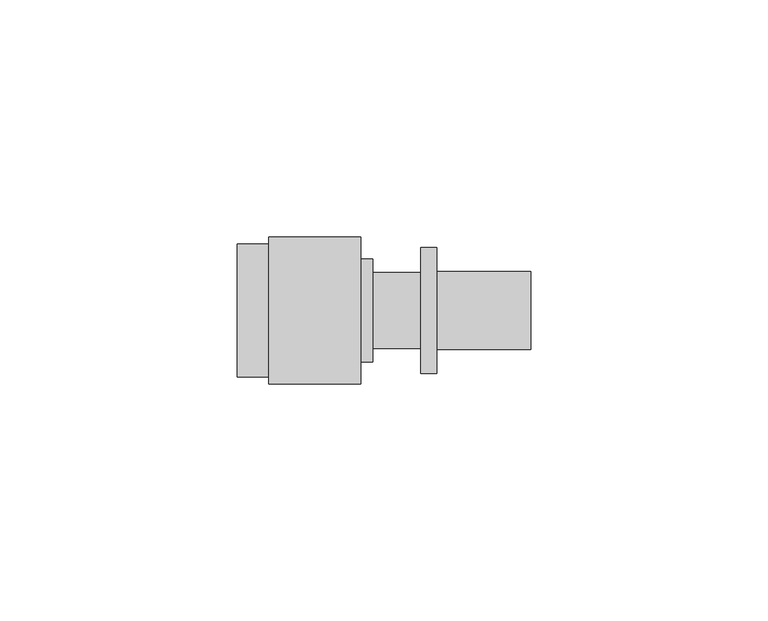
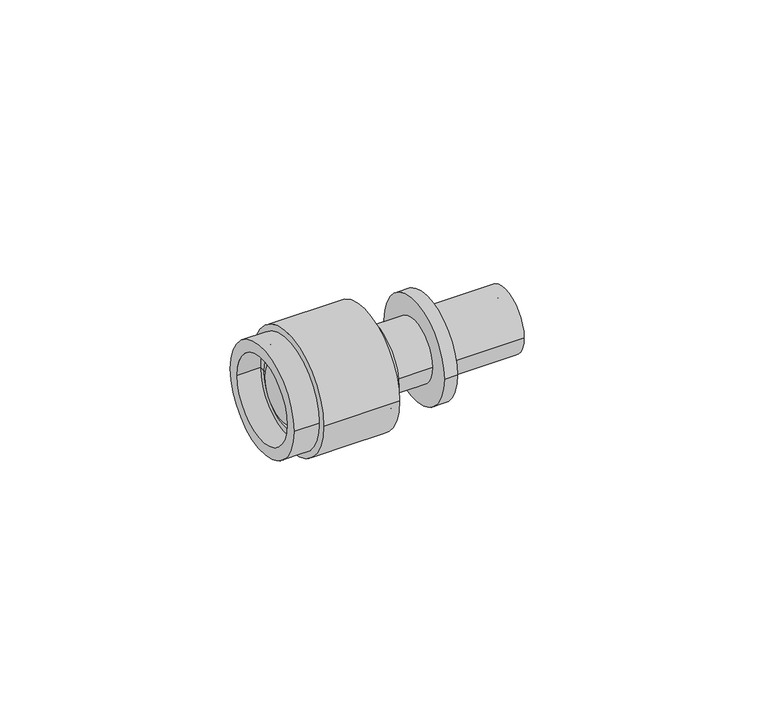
"""IFC4 building model written with IfcOpenShell, lengths in millimetres: pipe fitting geometry, REHAU_RAUTITAN_Adaptor RX+, MeplaFix : REHAU_RAUTITAN_Adaptor RX+, MeplaFix."""

from ifc_helpers import new_model, si_unit, point, frame, origin, origin_2d, place, context, project, spatial, polyline, circle_curve, trimmed, segment, composite_curve, outline, extrude, source, transform, mapped, element, save
from ifc_brep_helpers import plane_surface, cylinder_surface, revolved_surface, advanced_brep


def pipe_fitting_01caa238(model_context):
    return source(origin(), model_context, "Body", "SolidModel", [
        advanced_brep(
        [(-7.65, -15.5, 0.0), (-7.65, 15.5, 0.0), (-7.65, 12.7, 0.0), (-7.65, -12.7, 0.0), (-26.95, -15.5, 0.0), (-26.95, 15.5, 0.0), (-26.95, -9.3, 0.0), (-26.95, 9.3, 0.0), (-16.65, -12.7, 0.0), (-16.65, 12.7, 0.0), (-16.65, 10.5, 0.0), (-16.65, -10.5, 0.0), (-18.55, 10.5, 0.0), (-18.55, -10.5, 0.0), (-18.55, 8.7, 0.0), (-18.55, -8.7, 0.0), (-20.05, 8.7, 0.0), (-20.05, -8.7, 0.0), (-20.05, 10.7, 0.0), (-20.05, -10.7, 0.0), (-23.75, 10.7, 0.0), (-23.75, -10.7, 0.0), (-23.75, 9.3, 0.0), (-23.75, -9.3, 0.0)],
        [
            (0, 1, circle_curve(frame((-7.65, 0.0, 0.0), z_axis=(1.0, 0.0, 0.0), x_axis=(0.0, 1.0, 0.0)), 15.5)),
            (1, 0, circle_curve(frame((-7.65, 0.0, 0.0), z_axis=(1.0, 0.0, 0.0), x_axis=(0.0, 1.0, 0.0)), 15.5)),
            (2, 3, circle_curve(frame((-7.65, 0.0, 0.0), z_axis=(-1.0, 0.0, 0.0), x_axis=(0.0, 1.0, 0.0)), 12.7)),
            (3, 2, circle_curve(frame((-7.65, 0.0, 0.0), z_axis=(-1.0, 0.0, 0.0), x_axis=(0.0, 1.0, 0.0)), 12.7)),
            (4, 5, circle_curve(frame((-26.95, 0.0, 0.0), z_axis=(-1.0, 0.0, 0.0), x_axis=(0.0, 1.0, 0.0)), 15.5)),
            (5, 4, circle_curve(frame((-26.95, 0.0, 0.0), z_axis=(-1.0, 0.0, 0.0), x_axis=(0.0, 1.0, 0.0)), 15.5)),
            (6, 7, circle_curve(frame((-26.95, 0.0, 0.0), z_axis=(1.0, 0.0, 0.0), x_axis=(0.0, 1.0, 0.0)), 9.3)),
            (7, 6, circle_curve(frame((-26.95, 0.0, 0.0), z_axis=(1.0, 0.0, 0.0), x_axis=(0.0, 1.0, 0.0)), 9.3)),
            (0, 4),
            (5, 1),
            (8, 3),
            (2, 9),
            (9, 8, circle_curve(frame((-16.65, 0.0, 0.0), z_axis=(-1.0, 0.0, 0.0), x_axis=(0.0, 1.0, 0.0)), 12.7)),
            (8, 9, circle_curve(frame((-16.65, 0.0, 0.0), z_axis=(-1.0, 0.0, 0.0), x_axis=(0.0, 1.0, 0.0)), 12.7)),
            (9, 10),
            (10, 11, circle_curve(frame((-16.65, 0.0, 0.0), z_axis=(-1.0, 0.0, 0.0), x_axis=(0.0, 1.0, 0.0)), 10.5)),
            (11, 8),
            (11, 10, circle_curve(frame((-16.65, 0.0, 0.0), z_axis=(-1.0, 0.0, 0.0), x_axis=(0.0, 1.0, 0.0)), 10.5)),
            (10, 12),
            (12, 13, circle_curve(frame((-18.55, 0.0, 0.0), z_axis=(-1.0, 0.0, 0.0), x_axis=(0.0, 1.0, 0.0)), 10.5)),
            (13, 11),
            (13, 12, circle_curve(frame((-18.55, 0.0, 0.0), z_axis=(-1.0, 0.0, 0.0), x_axis=(0.0, 1.0, 0.0)), 10.5)),
            (12, 14),
            (14, 15, circle_curve(frame((-18.55, 0.0, 0.0), z_axis=(-1.0, 0.0, 0.0), x_axis=(0.0, 1.0, 0.0)), 8.7)),
            (15, 13),
            (15, 14, circle_curve(frame((-18.55, 0.0, 0.0), z_axis=(-1.0, 0.0, 0.0), x_axis=(0.0, 1.0, 0.0)), 8.7)),
            (14, 16),
            (16, 17, circle_curve(frame((-20.05, 0.0, 0.0), z_axis=(-1.0, 0.0, 0.0), x_axis=(0.0, 1.0, 0.0)), 8.7)),
            (17, 15),
            (17, 16, circle_curve(frame((-20.05, 0.0, 0.0), z_axis=(-1.0, 0.0, 0.0), x_axis=(0.0, 1.0, 0.0)), 8.7)),
            (16, 18),
            (18, 19, circle_curve(frame((-20.05, 0.0, 0.0), z_axis=(-1.0, 0.0, 0.0), x_axis=(0.0, 1.0, 0.0)), 10.7)),
            (19, 17),
            (19, 18, circle_curve(frame((-20.05, 0.0, 0.0), z_axis=(-1.0, 0.0, 0.0), x_axis=(0.0, 1.0, 0.0)), 10.7)),
            (18, 20),
            (20, 21, circle_curve(frame((-23.75, 0.0, 0.0), z_axis=(-1.0, 0.0, 0.0), x_axis=(0.0, 1.0, 0.0)), 10.7)),
            (21, 19),
            (21, 20, circle_curve(frame((-23.75, 0.0, 0.0), z_axis=(-1.0, 0.0, 0.0), x_axis=(0.0, 1.0, 0.0)), 10.7)),
            (20, 22),
            (22, 23, circle_curve(frame((-23.75, 0.0, 0.0), z_axis=(-1.0, 0.0, 0.0), x_axis=(0.0, 1.0, 0.0)), 9.3)),
            (23, 21),
            (23, 22, circle_curve(frame((-23.75, 0.0, 0.0), z_axis=(-1.0, 0.0, 0.0), x_axis=(0.0, 1.0, 0.0)), 9.3)),
            (22, 7),
            (6, 23),
        ],
        [
            plane_surface(frame((-7.65, 15.5, 0.0), z_axis=(1.0, 0.0, 0.0), x_axis=(0.0, 0.0, 1.0))),
            plane_surface(frame((-26.95, 15.5, 0.0), z_axis=(-1.0, 0.0, 0.0), x_axis=(0.0, 0.0, -1.0))),
            cylinder_surface(frame((-26.95, 0.0, 0.0), z_axis=(1.0, 0.0, 0.0), x_axis=(0.0, 1.0, 0.0)), 15.5),
            revolved_surface(polyline([(-16.65, 12.7, 0.0), (-7.65, 12.7, 0.0)]), (-7.65, 0.0, 0.0), (-1.0, 0.0, 0.0)),
            plane_surface(frame((-16.65, 0.0, 0.0), z_axis=(1.0, 0.0, 0.0), x_axis=(0.0, 1.0, 0.0))),
            revolved_surface(polyline([(-18.55, 10.5, 0.0), (-16.65, 10.5, 0.0)]), (-7.65, 0.0, 0.0), (-1.0, 0.0, 0.0)),
            plane_surface(frame((-18.55, 0.0, 0.0), z_axis=(1.0, 0.0, 0.0), x_axis=(0.0, 1.0, 0.0))),
            revolved_surface(polyline([(-20.05, 8.7, 0.0), (-18.55, 8.7, 0.0)]), (-7.65, 0.0, 0.0), (-1.0, 0.0, 0.0)),
            plane_surface(frame((-20.05, 0.0, 0.0), z_axis=(-1.0, 0.0, 0.0), x_axis=(0.0, 1.0, 0.0))),
            revolved_surface(polyline([(-23.75, 10.7, 0.0), (-20.05, 10.7, 0.0)]), (-7.65, 0.0, 0.0), (-1.0, 0.0, 0.0)),
            plane_surface(frame((-23.75, 0.0, 0.0), z_axis=(1.0, 0.0, 0.0), x_axis=(0.0, 1.0, 0.0))),
            revolved_surface(polyline([(-26.949999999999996, 9.3, 0.0), (-23.75, 9.3, 0.0)]), (-7.65, 0.0, 0.0), (-1.0, 0.0, 0.0)),
        ],
        [
            (0, [[1, 2], [3, 4]]),
            (1, [[5, 6], [7, 8]]),
            (2, [[-1, 9, -6, 10]]),
            (2, [[-2, -10, -5, -9]]),
            (3, [[11, -3, 12, 13]]),
            (3, [[-11, 14, -12, -4]]),
            (4, [[-13, 15, 16, 17]]),
            (4, [[-14, -17, 18, -15]]),
            (5, [[-16, 19, 20, 21]]),
            (5, [[-18, -21, 22, -19]]),
            (6, [[-20, 23, 24, 25]]),
            (6, [[-22, -25, 26, -23]]),
            (7, [[-24, 27, 28, 29]]),
            (7, [[-26, -29, 30, -27]]),
            (8, [[-28, 31, 32, 33]]),
            (8, [[-30, -33, 34, -31]]),
            (9, [[-32, 35, 36, 37]]),
            (9, [[-34, -37, 38, -35]]),
            (10, [[-36, 39, 40, 41]]),
            (10, [[-38, -41, 42, -39]]),
            (11, [[-40, 43, -7, 44]]),
            (11, [[-42, -44, -8, -43]]),
        ],
    ),
        advanced_brep(
        [(-26.95, -14.0, 0.0), (-26.95, 14.0, 0.0), (-26.95, 9.3, 0.0), (-26.95, -9.3, 0.0), (-33.65, -14.0, 0.0), (-33.65, 14.0, 0.0), (-33.65, -11.0, 0.0), (-33.65, 11.0, 0.0), (-27.75, -11.0, 0.0), (-27.75, 11.0, 0.0), (-27.75, 9.3, 0.0), (-27.75, -9.3, 0.0)],
        [
            (0, 1, circle_curve(frame((-26.95, 0.0, 0.0), z_axis=(1.0, 0.0, 0.0), x_axis=(0.0, 1.0, 0.0)), 14.0)),
            (1, 0, circle_curve(frame((-26.95, 0.0, 0.0), z_axis=(1.0, 0.0, 0.0), x_axis=(0.0, 1.0, 0.0)), 14.0)),
            (2, 3, circle_curve(frame((-26.95, 0.0, 0.0), z_axis=(-1.0, 0.0, 0.0), x_axis=(0.0, 1.0, 0.0)), 9.3)),
            (3, 2, circle_curve(frame((-26.95, 0.0, 0.0), z_axis=(-1.0, 0.0, 0.0), x_axis=(0.0, 1.0, 0.0)), 9.3)),
            (4, 5, circle_curve(frame((-33.65, 0.0, 0.0), z_axis=(-1.0, 0.0, 0.0), x_axis=(0.0, 1.0, 0.0)), 14.0)),
            (5, 4, circle_curve(frame((-33.65, 0.0, 0.0), z_axis=(-1.0, 0.0, 0.0), x_axis=(0.0, 1.0, 0.0)), 14.0)),
            (6, 7, circle_curve(frame((-33.65, 0.0, 0.0), z_axis=(1.0, 0.0, 0.0), x_axis=(0.0, 1.0, 0.0)), 11.0)),
            (7, 6, circle_curve(frame((-33.65, 0.0, 0.0), z_axis=(1.0, 0.0, 0.0), x_axis=(0.0, 1.0, 0.0)), 11.0)),
            (0, 4),
            (5, 1),
            (6, 8),
            (8, 9, circle_curve(frame((-27.75, 0.0, 0.0), z_axis=(1.0, 0.0, 0.0), x_axis=(0.0, 1.0, 0.0)), 11.0)),
            (9, 7),
            (9, 8, circle_curve(frame((-27.75, 0.0, 0.0), z_axis=(1.0, 0.0, 0.0), x_axis=(0.0, 1.0, 0.0)), 11.0)),
            (10, 11, circle_curve(frame((-27.75, 0.0, 0.0), z_axis=(-1.0, 0.0, 0.0), x_axis=(0.0, 1.0, 0.0)), 9.3)),
            (11, 3),
            (2, 10),
            (11, 10, circle_curve(frame((-27.75, 0.0, 0.0), z_axis=(-1.0, 0.0, 0.0), x_axis=(0.0, 1.0, 0.0)), 9.3)),
            (8, 11),
            (10, 9),
        ],
        [
            plane_surface(frame((-26.95, 14.0, 0.0), z_axis=(1.0, 0.0, 0.0), x_axis=(0.0, 0.0, 1.0))),
            plane_surface(frame((-33.65, 14.0, 0.0), z_axis=(-1.0, 0.0, 0.0), x_axis=(0.0, 0.0, -1.0))),
            cylinder_surface(frame((-33.65, 0.0, 0.0), z_axis=(1.0, 0.0, 0.0), x_axis=(0.0, 1.0, 0.0)), 14.0),
            revolved_surface(polyline([(-33.65, 11.0, 0.0), (-27.75, 11.0, 0.0)]), (-7.65, 0.0, 0.0), (-1.0, 0.0, 0.0)),
            revolved_surface(polyline([(-27.75, 9.3, 0.0), (-26.949999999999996, 9.3, 0.0)]), (-7.65, 0.0, 0.0), (-1.0, 0.0, 0.0)),
            plane_surface(frame((-27.75, 0.0, 0.0), z_axis=(-1.0, 0.0, 0.0), x_axis=(0.0, 1.0, 0.0))),
        ],
        [
            (0, [[1, 2], [3, 4]]),
            (1, [[5, 6], [7, 8]]),
            (2, [[-1, 9, -6, 10]]),
            (2, [[-2, -10, -5, -9]]),
            (3, [[11, 12, 13, -7]]),
            (3, [[-11, -8, -13, 14]]),
            (4, [[15, 16, -3, 17]]),
            (4, [[18, -17, -4, -16]]),
            (5, [[-12, 19, -15, 20]]),
            (5, [[-14, -20, -18, -19]]),
        ],
    ),
        extrude(outline(composite_curve([segment(trimmed(circle_curve(origin_2d(), 7.4), [point((-7.4, 0.0))], [point((7.4, 0.0))], False, "CARTESIAN"), True, "CONTINUOUS"), segment(trimmed(circle_curve(origin_2d(), 7.4), [point((7.4, 0.0))], [point((-7.4, 0.0))], False, "CARTESIAN"), True, "CONTINUOUS")], self_intersect=False)), frame((-28.64, 0.0, 0.0), z_axis=(1.0, 0.0, 0.0), x_axis=(0.0, 1.0, 0.0)), (0.0, 0.0, 1.0), 10.54),
        extrude(outline(composite_curve([segment(trimmed(circle_curve(origin_2d(), 6.35), [point((-6.35, 0.0))], [point((6.35, 0.0))], False, "CARTESIAN"), True, "CONTINUOUS"), segment(trimmed(circle_curve(origin_2d(), 6.35), [point((6.35, 0.0))], [point((-6.35, 0.0))], False, "CARTESIAN"), True, "CONTINUOUS")], self_intersect=False)), frame((-18.1, 0.0, 0.0), z_axis=(1.0, 0.0, 0.0), x_axis=(0.0, 1.0, 0.0)), (0.0, 0.0, 1.0), 1.97),
        extrude(outline(composite_curve([segment(trimmed(circle_curve(origin_2d(), 7.4), [point((-7.4, 0.0))], [point((7.4, 0.0))], False, "CARTESIAN"), True, "CONTINUOUS"), segment(trimmed(circle_curve(origin_2d(), 7.4), [point((7.4, 0.0))], [point((-7.4, 0.0))], False, "CARTESIAN"), True, "CONTINUOUS")], self_intersect=False)), frame((-16.13, 0.0, 0.0), z_axis=(1.0, 0.0, 0.0), x_axis=(0.0, 1.0, 0.0)), (0.0, 0.0, 1.0), 8.48),
        extrude(outline(composite_curve([segment(trimmed(circle_curve(origin_2d(), 10.85), [point((-10.85, 0.0))], [point((10.85, 0.0))], False, "CARTESIAN"), True, "CONTINUOUS"), segment(trimmed(circle_curve(origin_2d(), 10.85), [point((10.85, 0.0))], [point((-10.85, 0.0))], False, "CARTESIAN"), True, "CONTINUOUS")], self_intersect=False)), frame((-7.65, 0.0, 0.0), z_axis=(1.0, 0.0, 0.0), x_axis=(0.0, 1.0, 0.0)), (0.0, 0.0, 1.0), 2.6),
        extrude(outline(composite_curve([segment(trimmed(circle_curve(origin_2d(), 8.0), [point((-8.0, 0.0))], [point((8.0, 0.0))], False, "CARTESIAN"), True, "CONTINUOUS"), segment(trimmed(circle_curve(origin_2d(), 8.0), [point((8.0, 0.0))], [point((-8.0, 0.0))], False, "CARTESIAN"), True, "CONTINUOUS")], self_intersect=False), holes=[composite_curve([segment(trimmed(circle_curve(origin_2d(), 4.95), [point((-4.95, 0.0))], [point((4.95, 0.0))], True, "CARTESIAN"), True, "CONTINUOUS"), segment(trimmed(circle_curve(origin_2d(), 4.95), [point((4.95, 0.0))], [point((-4.95, 0.0))], True, "CARTESIAN"), True, "CONTINUOUS")], self_intersect=False)]), frame((-5.05, 0.0, 0.0), z_axis=(1.0, 0.0, 0.0), x_axis=(0.0, 1.0, 0.0)), (0.0, 0.0, 1.0), 10.1),
        extrude(outline(composite_curve([segment(trimmed(circle_curve(origin_2d(), 8.225), [point((-8.225, 0.0))], [point((8.225, 0.0))], False, "CARTESIAN"), True, "CONTINUOUS"), segment(trimmed(circle_curve(origin_2d(), 8.225), [point((8.225, 0.0))], [point((-8.225, 0.0))], False, "CARTESIAN"), True, "CONTINUOUS")], self_intersect=False), holes=[composite_curve([segment(trimmed(circle_curve(origin_2d(), 4.95), [point((-4.95, 0.0))], [point((4.95, 0.0))], True, "CARTESIAN"), True, "CONTINUOUS"), segment(trimmed(circle_curve(origin_2d(), 4.95), [point((4.95, 0.0))], [point((-4.95, 0.0))], True, "CARTESIAN"), True, "CONTINUOUS")], self_intersect=False)]), frame((8.4, 0.0, 0.0), z_axis=(1.0, 0.0, 0.0), x_axis=(0.0, 1.0, 0.0)), (0.0, 0.0, 1.0), 19.84),
        extrude(outline(composite_curve([segment(trimmed(circle_curve(origin_2d(), 13.25), [point((-13.25, 0.0))], [point((13.25, 0.0))], False, "CARTESIAN"), True, "CONTINUOUS"), segment(trimmed(circle_curve(origin_2d(), 13.25), [point((13.25, 0.0))], [point((-13.25, 0.0))], False, "CARTESIAN"), True, "CONTINUOUS")], self_intersect=False)), frame((5.05, 0.0, 0.0), z_axis=(1.0, 0.0, 0.0), x_axis=(0.0, 1.0, 0.0)), (0.0, 0.0, 1.0), 3.35),
    ])


if __name__ == "__main__":
    model = new_model("IFC4")
    model_context = context("Model", 3, world=origin())
    ifc_project = project(units=[si_unit("LENGTHUNIT", "METRE", prefix="MILLI")], contexts=[model_context])
    site = spatial("IfcSite", under=ifc_project)
    building = spatial("IfcBuilding", under=site)
    placement = place(None, origin())
    pipe_fitting_shape = pipe_fitting_01caa238(model_context)
    element("IfcPipeFitting", 1, ObjectType="REHAU_RAUTITAN_Adaptor RX+, MeplaFix : REHAU_RAUTITAN_Adaptor RX+, MeplaFix", at=placement, inside=building, context=model_context, shape_type="MappedRepresentation", body=[
        mapped(pipe_fitting_shape, transform((0.0, 0.0, 0.0), x_axis=(1.0, 0.0, 0.0), y_axis=(0.0, 1.0, 0.0), z_axis=(0.0, 0.0, 1.0))),
    ])
    save(model, "model.ifc")
